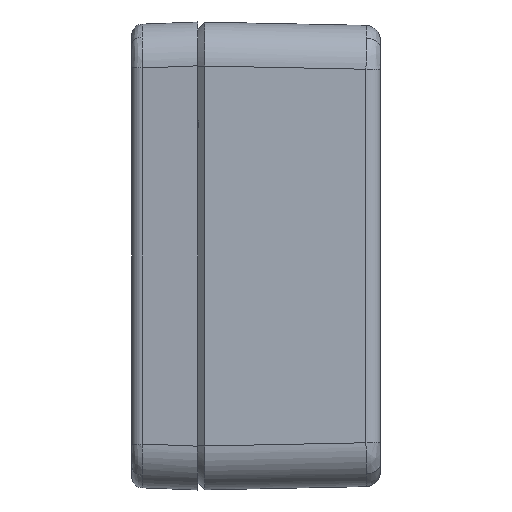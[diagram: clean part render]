
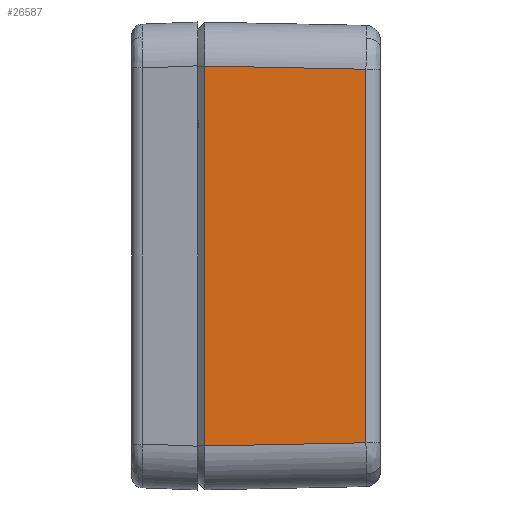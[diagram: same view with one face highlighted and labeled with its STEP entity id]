
A CAD part, left-side view. The second image highlights one B-rep face of the part: STEP entity #26587.
In plain terms, the highlighted planar face has unit normal (-1, -0.02, 0).
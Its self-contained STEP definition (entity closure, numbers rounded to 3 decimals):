
#857 = DIRECTION ( 'NONE',  ( 0.02, -1., 0.02 ) ) ;
#1271 = VECTOR ( 'NONE', #10808, 1000. ) ;
#1449 = EDGE_LOOP ( 'NONE', ( #12086, #21578, #19566, #14747 ) ) ;
#3195 = VECTOR ( 'NONE', #10799, 1000. ) ;
#3578 = VERTEX_POINT ( 'NONE', #14449 ) ;
#3962 = FACE_OUTER_BOUND ( 'NONE', #1449, .T. ) ;
#5449 = LINE ( 'NONE', #24708, #3195 ) ;
#6834 = PLANE ( 'NONE',  #7892 ) ;
#7892 = AXIS2_PLACEMENT_3D ( 'NONE', #23595, #23411, #34291 ) ;
#9901 = CARTESIAN_POINT ( 'NONE',  ( -74.98, -1., 25.981 ) ) ;
#10799 = DIRECTION ( 'NONE',  ( 0., 0., -1. ) ) ;
#10808 = DIRECTION ( 'NONE',  ( 0., 0., 1. ) ) ;
#11053 = EDGE_CURVE ( 'NONE', #3578, #28478, #14411, .T. ) ;
#12086 = ORIENTED_EDGE ( 'NONE', *, *, #15848, .T. ) ;
#14411 = LINE ( 'NONE', #25310, #29351 ) ;
#14449 = CARTESIAN_POINT ( 'NONE',  ( -74.98, -1., -25.981 ) ) ;
#14747 = ORIENTED_EDGE ( 'NONE', *, *, #21723, .T. ) ;
#15848 = EDGE_CURVE ( 'NONE', #27140, #28230, #31877, .T. ) ;
#18122 = DIRECTION ( 'NONE',  ( -0.02, 1., 0.02 ) ) ;
#19521 = EDGE_CURVE ( 'NONE', #28230, #3578, #5449, .T. ) ;
#19566 = ORIENTED_EDGE ( 'NONE', *, *, #11053, .T. ) ;
#21578 = ORIENTED_EDGE ( 'NONE', *, *, #19521, .T. ) ;
#21723 = EDGE_CURVE ( 'NONE', #28478, #27140, #24371, .T. ) ;
#23411 = DIRECTION ( 'NONE',  ( -1., -0.02, 0. ) ) ;
#23595 = CARTESIAN_POINT ( 'NONE',  ( -75., 0., -32. ) ) ;
#24371 = LINE ( 'NONE', #35251, #1271 ) ;
#24708 = CARTESIAN_POINT ( 'NONE',  ( -74.98, -1., -32. ) ) ;
#25310 = CARTESIAN_POINT ( 'NONE',  ( -75.002, 0.12, -26.004 ) ) ;
#26587 = ADVANCED_FACE ( 'NONE', ( #3962 ), #6834, .T. ) ;
#27140 = VERTEX_POINT ( 'NONE', #32682 ) ;
#28230 = VERTEX_POINT ( 'NONE', #9901 ) ;
#28478 = VERTEX_POINT ( 'NONE', #30895 ) ;
#28852 = CARTESIAN_POINT ( 'NONE',  ( -74.977, -1.159, 25.978 ) ) ;
#29351 = VECTOR ( 'NONE', #857, 1000. ) ;
#30181 = VECTOR ( 'NONE', #18122, 1000. ) ;
#30895 = CARTESIAN_POINT ( 'NONE',  ( -74.539, -23.04, -25.54 ) ) ;
#31877 = LINE ( 'NONE', #28852, #30181 ) ;
#32682 = CARTESIAN_POINT ( 'NONE',  ( -74.539, -23.04, 25.54 ) ) ;
#34291 = DIRECTION ( 'NONE',  ( -0.02, 1., 0. ) ) ;
#35251 = CARTESIAN_POINT ( 'NONE',  ( -74.539, -23.04, 25.501 ) ) ;
